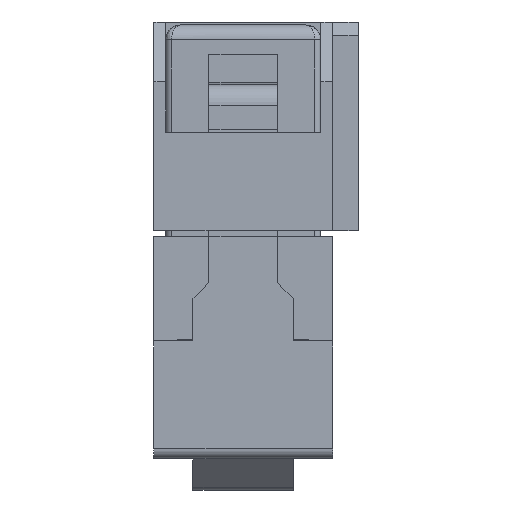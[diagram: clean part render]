
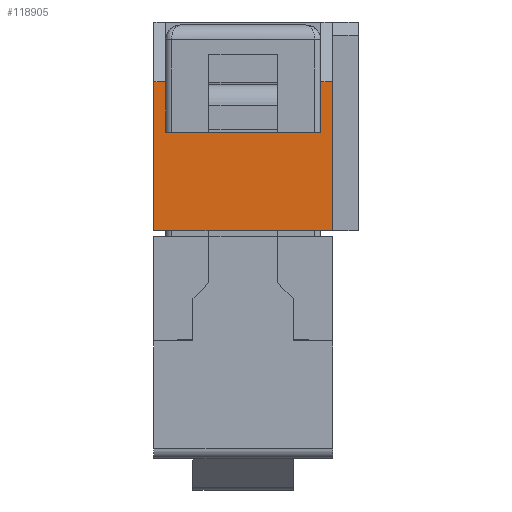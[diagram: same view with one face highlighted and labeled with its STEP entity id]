
A CAD part, left-side view. The second image highlights one B-rep face of the part: STEP entity #118905.
In plain terms, the highlighted planar face has unit normal (-1, 0, 0).
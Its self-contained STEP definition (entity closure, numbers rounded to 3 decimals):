
#111667 = PLANE('',#111668);
#111668 = AXIS2_PLACEMENT_3D('',#111669,#111670,#111671);
#111669 = CARTESIAN_POINT('',(-23.93,-3.,0.));
#111670 = DIRECTION('',(0.,0.,1.));
#111671 = DIRECTION('',(1.,0.,0.));
#113889 = VERTEX_POINT('',#113890);
#113890 = CARTESIAN_POINT('',(-23.93,-3.,0.));
#113904 = PLANE('',#113905);
#113905 = AXIS2_PLACEMENT_3D('',#113906,#113907,#113908);
#113906 = CARTESIAN_POINT('',(-23.93,-3.,7.));
#113907 = DIRECTION('',(0.,1.,0.));
#113908 = DIRECTION('',(-1.,0.,0.));
#113916 = EDGE_CURVE('',#113917,#113889,#113919,.T.);
#113917 = VERTEX_POINT('',#113918);
#113918 = CARTESIAN_POINT('',(-23.93,3.,0.));
#113919 = SURFACE_CURVE('',#113920,(#113924,#113931),.PCURVE_S1.);
#113920 = LINE('',#113921,#113922);
#113921 = CARTESIAN_POINT('',(-23.93,3.,0.));
#113922 = VECTOR('',#113923,1.);
#113923 = DIRECTION('',(0.,-1.,0.));
#113924 = PCURVE('',#111667,#113925);
#113925 = DEFINITIONAL_REPRESENTATION('',(#113926),#113930);
#113926 = LINE('',#113927,#113928);
#113927 = CARTESIAN_POINT('',(0.,6.));
#113928 = VECTOR('',#113929,1.);
#113929 = DIRECTION('',(0.,-1.));
#113930 = ( GEOMETRIC_REPRESENTATION_CONTEXT(2) 
PARAMETRIC_REPRESENTATION_CONTEXT() REPRESENTATION_CONTEXT('2D SPACE',''
  ) );
#113931 = PCURVE('',#113932,#113937);
#113932 = PLANE('',#113933);
#113933 = AXIS2_PLACEMENT_3D('',#113934,#113935,#113936);
#113934 = CARTESIAN_POINT('',(-23.93,3.,7.));
#113935 = DIRECTION('',(1.,0.,0.));
#113936 = DIRECTION('',(0.,0.,-1.));
#113937 = DEFINITIONAL_REPRESENTATION('',(#113938),#113942);
#113938 = LINE('',#113939,#113940);
#113939 = CARTESIAN_POINT('',(7.,0.));
#113940 = VECTOR('',#113941,1.);
#113941 = DIRECTION('',(0.,-1.));
#113942 = ( GEOMETRIC_REPRESENTATION_CONTEXT(2) 
PARAMETRIC_REPRESENTATION_CONTEXT() REPRESENTATION_CONTEXT('2D SPACE',''
  ) );
#113960 = PLANE('',#113961);
#113961 = AXIS2_PLACEMENT_3D('',#113962,#113963,#113964);
#113962 = CARTESIAN_POINT('',(23.93,3.,7.));
#113963 = DIRECTION('',(0.,-1.,0.));
#113964 = DIRECTION('',(1.,0.,0.));
#115576 = PLANE('',#115577);
#115577 = AXIS2_PLACEMENT_3D('',#115578,#115579,#115580);
#115578 = CARTESIAN_POINT('',(-23.53,-2.6,48.853));
#115579 = DIRECTION('',(0.,1.,0.));
#115580 = DIRECTION('',(-1.,0.,0.));
#115649 = PLANE('',#115650);
#115650 = AXIS2_PLACEMENT_3D('',#115651,#115652,#115653);
#115651 = CARTESIAN_POINT('',(-22.13,2.6,48.853));
#115652 = DIRECTION('',(0.,-1.,0.));
#115653 = DIRECTION('',(1.,0.,0.));
#118905 = ADVANCED_FACE('',(#118906),#113932,.F.);
#118906 = FACE_BOUND('',#118907,.T.);
#118907 = EDGE_LOOP('',(#118908,#118938,#118961,#118989,#119012,#119040,
    #119061,#119062));
#118908 = ORIENTED_EDGE('',*,*,#118909,.F.);
#118909 = EDGE_CURVE('',#118910,#118912,#118914,.T.);
#118910 = VERTEX_POINT('',#118911);
#118911 = CARTESIAN_POINT('',(-23.93,-2.6,5.));
#118912 = VERTEX_POINT('',#118913);
#118913 = CARTESIAN_POINT('',(-23.93,-3.,5.));
#118914 = SURFACE_CURVE('',#118915,(#118919,#118926),.PCURVE_S1.);
#118915 = LINE('',#118916,#118917);
#118916 = CARTESIAN_POINT('',(-23.93,3.,5.));
#118917 = VECTOR('',#118918,1.);
#118918 = DIRECTION('',(0.,-1.,0.));
#118919 = PCURVE('',#113932,#118920);
#118920 = DEFINITIONAL_REPRESENTATION('',(#118921),#118925);
#118921 = LINE('',#118922,#118923);
#118922 = CARTESIAN_POINT('',(2.,0.));
#118923 = VECTOR('',#118924,1.);
#118924 = DIRECTION('',(0.,-1.));
#118925 = ( GEOMETRIC_REPRESENTATION_CONTEXT(2) 
PARAMETRIC_REPRESENTATION_CONTEXT() REPRESENTATION_CONTEXT('2D SPACE',''
  ) );
#118926 = PCURVE('',#118927,#118932);
#118927 = PLANE('',#118928);
#118928 = AXIS2_PLACEMENT_3D('',#118929,#118930,#118931);
#118929 = CARTESIAN_POINT('',(-23.93,-48.853,5.));
#118930 = DIRECTION('',(-0.894,0.,0.447));
#118931 = DIRECTION('',(0.447,0.,0.894));
#118932 = DEFINITIONAL_REPRESENTATION('',(#118933),#118937);
#118933 = LINE('',#118934,#118935);
#118934 = CARTESIAN_POINT('',(0.,51.853));
#118935 = VECTOR('',#118936,1.);
#118936 = DIRECTION('',(0.,-1.));
#118937 = ( GEOMETRIC_REPRESENTATION_CONTEXT(2) 
PARAMETRIC_REPRESENTATION_CONTEXT() REPRESENTATION_CONTEXT('2D SPACE',''
  ) );
#118938 = ORIENTED_EDGE('',*,*,#118939,.F.);
#118939 = EDGE_CURVE('',#118940,#118910,#118942,.T.);
#118940 = VERTEX_POINT('',#118941);
#118941 = CARTESIAN_POINT('',(-23.93,-2.6,3.3));
#118942 = SURFACE_CURVE('',#118943,(#118947,#118954),.PCURVE_S1.);
#118943 = LINE('',#118944,#118945);
#118944 = CARTESIAN_POINT('',(-23.93,-2.6,3.3));
#118945 = VECTOR('',#118946,1.);
#118946 = DIRECTION('',(0.,0.,1.));
#118947 = PCURVE('',#113932,#118948);
#118948 = DEFINITIONAL_REPRESENTATION('',(#118949),#118953);
#118949 = LINE('',#118950,#118951);
#118950 = CARTESIAN_POINT('',(3.7,-5.6));
#118951 = VECTOR('',#118952,1.);
#118952 = DIRECTION('',(-1.,0.));
#118953 = ( GEOMETRIC_REPRESENTATION_CONTEXT(2) 
PARAMETRIC_REPRESENTATION_CONTEXT() REPRESENTATION_CONTEXT('2D SPACE',''
  ) );
#118954 = PCURVE('',#115576,#118955);
#118955 = DEFINITIONAL_REPRESENTATION('',(#118956),#118960);
#118956 = LINE('',#118957,#118958);
#118957 = CARTESIAN_POINT('',(0.4,-45.553));
#118958 = VECTOR('',#118959,1.);
#118959 = DIRECTION('',(0.,1.));
#118960 = ( GEOMETRIC_REPRESENTATION_CONTEXT(2) 
PARAMETRIC_REPRESENTATION_CONTEXT() REPRESENTATION_CONTEXT('2D SPACE',''
  ) );
#118961 = ORIENTED_EDGE('',*,*,#118962,.F.);
#118962 = EDGE_CURVE('',#118963,#118940,#118965,.T.);
#118963 = VERTEX_POINT('',#118964);
#118964 = CARTESIAN_POINT('',(-23.93,2.6,3.3));
#118965 = SURFACE_CURVE('',#118966,(#118970,#118977),.PCURVE_S1.);
#118966 = LINE('',#118967,#118968);
#118967 = CARTESIAN_POINT('',(-23.93,2.6,3.3));
#118968 = VECTOR('',#118969,1.);
#118969 = DIRECTION('',(0.,-1.,0.));
#118970 = PCURVE('',#113932,#118971);
#118971 = DEFINITIONAL_REPRESENTATION('',(#118972),#118976);
#118972 = LINE('',#118973,#118974);
#118973 = CARTESIAN_POINT('',(3.7,-0.4));
#118974 = VECTOR('',#118975,1.);
#118975 = DIRECTION('',(0.,-1.));
#118976 = ( GEOMETRIC_REPRESENTATION_CONTEXT(2) 
PARAMETRIC_REPRESENTATION_CONTEXT() REPRESENTATION_CONTEXT('2D SPACE',''
  ) );
#118977 = PCURVE('',#118978,#118983);
#118978 = PLANE('',#118979);
#118979 = AXIS2_PLACEMENT_3D('',#118980,#118981,#118982);
#118980 = CARTESIAN_POINT('',(24.923,2.6,3.3));
#118981 = DIRECTION('',(0.,0.,-1.));
#118982 = DIRECTION('',(-1.,0.,0.));
#118983 = DEFINITIONAL_REPRESENTATION('',(#118984),#118988);
#118984 = LINE('',#118985,#118986);
#118985 = CARTESIAN_POINT('',(48.853,0.));
#118986 = VECTOR('',#118987,1.);
#118987 = DIRECTION('',(0.,-1.));
#118988 = ( GEOMETRIC_REPRESENTATION_CONTEXT(2) 
PARAMETRIC_REPRESENTATION_CONTEXT() REPRESENTATION_CONTEXT('2D SPACE',''
  ) );
#118989 = ORIENTED_EDGE('',*,*,#118990,.F.);
#118990 = EDGE_CURVE('',#118991,#118963,#118993,.T.);
#118991 = VERTEX_POINT('',#118992);
#118992 = CARTESIAN_POINT('',(-23.93,2.6,5.));
#118993 = SURFACE_CURVE('',#118994,(#118998,#119005),.PCURVE_S1.);
#118994 = LINE('',#118995,#118996);
#118995 = CARTESIAN_POINT('',(-23.93,2.6,5.8));
#118996 = VECTOR('',#118997,1.);
#118997 = DIRECTION('',(0.,0.,-1.));
#118998 = PCURVE('',#113932,#118999);
#118999 = DEFINITIONAL_REPRESENTATION('',(#119000),#119004);
#119000 = LINE('',#119001,#119002);
#119001 = CARTESIAN_POINT('',(1.2,-0.4));
#119002 = VECTOR('',#119003,1.);
#119003 = DIRECTION('',(1.,0.));
#119004 = ( GEOMETRIC_REPRESENTATION_CONTEXT(2) 
PARAMETRIC_REPRESENTATION_CONTEXT() REPRESENTATION_CONTEXT('2D SPACE',''
  ) );
#119005 = PCURVE('',#115649,#119006);
#119006 = DEFINITIONAL_REPRESENTATION('',(#119007),#119011);
#119007 = LINE('',#119008,#119009);
#119008 = CARTESIAN_POINT('',(-1.8,-43.053));
#119009 = VECTOR('',#119010,1.);
#119010 = DIRECTION('',(0.,-1.));
#119011 = ( GEOMETRIC_REPRESENTATION_CONTEXT(2) 
PARAMETRIC_REPRESENTATION_CONTEXT() REPRESENTATION_CONTEXT('2D SPACE',''
  ) );
#119012 = ORIENTED_EDGE('',*,*,#119013,.F.);
#119013 = EDGE_CURVE('',#119014,#118991,#119016,.T.);
#119014 = VERTEX_POINT('',#119015);
#119015 = CARTESIAN_POINT('',(-23.93,3.,5.));
#119016 = SURFACE_CURVE('',#119017,(#119021,#119028),.PCURVE_S1.);
#119017 = LINE('',#119018,#119019);
#119018 = CARTESIAN_POINT('',(-23.93,3.,5.));
#119019 = VECTOR('',#119020,1.);
#119020 = DIRECTION('',(0.,-1.,0.));
#119021 = PCURVE('',#113932,#119022);
#119022 = DEFINITIONAL_REPRESENTATION('',(#119023),#119027);
#119023 = LINE('',#119024,#119025);
#119024 = CARTESIAN_POINT('',(2.,0.));
#119025 = VECTOR('',#119026,1.);
#119026 = DIRECTION('',(0.,-1.));
#119027 = ( GEOMETRIC_REPRESENTATION_CONTEXT(2) 
PARAMETRIC_REPRESENTATION_CONTEXT() REPRESENTATION_CONTEXT('2D SPACE',''
  ) );
#119028 = PCURVE('',#119029,#119034);
#119029 = PLANE('',#119030);
#119030 = AXIS2_PLACEMENT_3D('',#119031,#119032,#119033);
#119031 = CARTESIAN_POINT('',(-23.93,-48.853,5.));
#119032 = DIRECTION('',(-0.894,0.,0.447));
#119033 = DIRECTION('',(0.447,0.,0.894));
#119034 = DEFINITIONAL_REPRESENTATION('',(#119035),#119039);
#119035 = LINE('',#119036,#119037);
#119036 = CARTESIAN_POINT('',(0.,51.853));
#119037 = VECTOR('',#119038,1.);
#119038 = DIRECTION('',(0.,-1.));
#119039 = ( GEOMETRIC_REPRESENTATION_CONTEXT(2) 
PARAMETRIC_REPRESENTATION_CONTEXT() REPRESENTATION_CONTEXT('2D SPACE',''
  ) );
#119040 = ORIENTED_EDGE('',*,*,#119041,.T.);
#119041 = EDGE_CURVE('',#119014,#113917,#119042,.T.);
#119042 = SURFACE_CURVE('',#119043,(#119047,#119054),.PCURVE_S1.);
#119043 = LINE('',#119044,#119045);
#119044 = CARTESIAN_POINT('',(-23.93,3.,7.));
#119045 = VECTOR('',#119046,1.);
#119046 = DIRECTION('',(0.,0.,-1.));
#119047 = PCURVE('',#113932,#119048);
#119048 = DEFINITIONAL_REPRESENTATION('',(#119049),#119053);
#119049 = LINE('',#119050,#119051);
#119050 = CARTESIAN_POINT('',(0.,0.));
#119051 = VECTOR('',#119052,1.);
#119052 = DIRECTION('',(1.,0.));
#119053 = ( GEOMETRIC_REPRESENTATION_CONTEXT(2) 
PARAMETRIC_REPRESENTATION_CONTEXT() REPRESENTATION_CONTEXT('2D SPACE',''
  ) );
#119054 = PCURVE('',#113960,#119055);
#119055 = DEFINITIONAL_REPRESENTATION('',(#119056),#119060);
#119056 = LINE('',#119057,#119058);
#119057 = CARTESIAN_POINT('',(-47.86,0.));
#119058 = VECTOR('',#119059,1.);
#119059 = DIRECTION('',(0.,-1.));
#119060 = ( GEOMETRIC_REPRESENTATION_CONTEXT(2) 
PARAMETRIC_REPRESENTATION_CONTEXT() REPRESENTATION_CONTEXT('2D SPACE',''
  ) );
#119061 = ORIENTED_EDGE('',*,*,#113916,.T.);
#119062 = ORIENTED_EDGE('',*,*,#119063,.F.);
#119063 = EDGE_CURVE('',#118912,#113889,#119064,.T.);
#119064 = SURFACE_CURVE('',#119065,(#119069,#119076),.PCURVE_S1.);
#119065 = LINE('',#119066,#119067);
#119066 = CARTESIAN_POINT('',(-23.93,-3.,7.));
#119067 = VECTOR('',#119068,1.);
#119068 = DIRECTION('',(0.,0.,-1.));
#119069 = PCURVE('',#113932,#119070);
#119070 = DEFINITIONAL_REPRESENTATION('',(#119071),#119075);
#119071 = LINE('',#119072,#119073);
#119072 = CARTESIAN_POINT('',(0.,-6.));
#119073 = VECTOR('',#119074,1.);
#119074 = DIRECTION('',(1.,0.));
#119075 = ( GEOMETRIC_REPRESENTATION_CONTEXT(2) 
PARAMETRIC_REPRESENTATION_CONTEXT() REPRESENTATION_CONTEXT('2D SPACE',''
  ) );
#119076 = PCURVE('',#113904,#119077);
#119077 = DEFINITIONAL_REPRESENTATION('',(#119078),#119082);
#119078 = LINE('',#119079,#119080);
#119079 = CARTESIAN_POINT('',(0.,0.));
#119080 = VECTOR('',#119081,1.);
#119081 = DIRECTION('',(-0.,-1.));
#119082 = ( GEOMETRIC_REPRESENTATION_CONTEXT(2) 
PARAMETRIC_REPRESENTATION_CONTEXT() REPRESENTATION_CONTEXT('2D SPACE',''
  ) );
